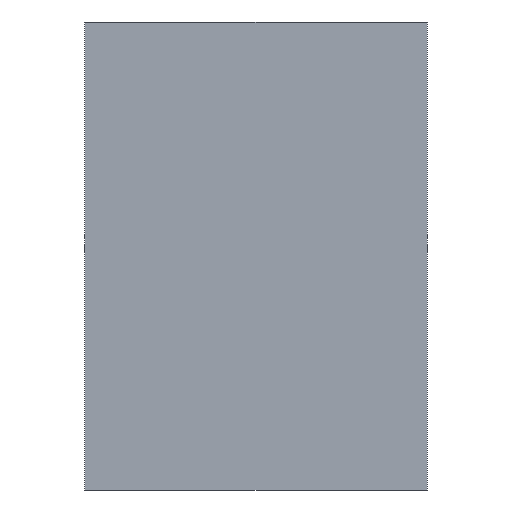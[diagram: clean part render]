
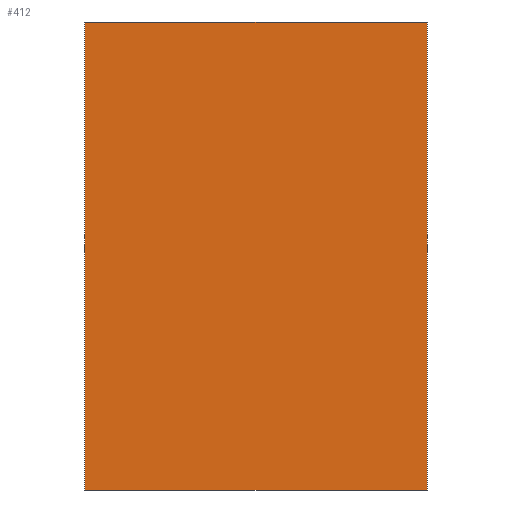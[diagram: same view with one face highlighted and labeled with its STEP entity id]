
A CAD part, front view. The second image highlights one B-rep face of the part: STEP entity #412.
In plain terms, the highlighted planar face has unit normal (0, -1, 0).
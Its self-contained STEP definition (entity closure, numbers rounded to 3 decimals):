
#296=DIRECTION('',(1.,0.,0.));
#297=VECTOR('',#296,534.);
#298=CARTESIAN_POINT('',(-267.,0.,0.));
#299=LINE('',#298,#297);
#304=DIRECTION('',(0.,0.,-1.));
#305=VECTOR('',#304,730.6);
#306=CARTESIAN_POINT('',(267.,0.,0.));
#307=LINE('',#306,#305);
#311=DIRECTION('',(-1.,0.,0.));
#312=VECTOR('',#311,534.);
#313=CARTESIAN_POINT('',(267.,0.,-730.6));
#314=LINE('',#313,#312);
#318=DIRECTION('',(0.,0.,1.));
#319=VECTOR('',#318,730.6);
#320=CARTESIAN_POINT('',(-267.,0.,-730.6));
#321=LINE('',#320,#319);
#381=CARTESIAN_POINT('',(-267.,0.,0.));
#382=CARTESIAN_POINT('',(267.,0.,0.));
#383=VERTEX_POINT('',#381);
#384=VERTEX_POINT('',#382);
#385=CARTESIAN_POINT('',(267.,0.,-730.6));
#386=VERTEX_POINT('',#385);
#387=CARTESIAN_POINT('',(-267.,0.,-730.6));
#388=VERTEX_POINT('',#387);
#397=CARTESIAN_POINT('',(0.,0.,0.));
#398=DIRECTION('',(0.,1.,0.));
#399=DIRECTION('',(1.,0.,0.));
#400=AXIS2_PLACEMENT_3D('',#397,#398,#399);
#401=PLANE('',#400);
#403=ORIENTED_EDGE('',*,*,#402,.T.);
#405=ORIENTED_EDGE('',*,*,#404,.T.);
#407=ORIENTED_EDGE('',*,*,#406,.T.);
#409=ORIENTED_EDGE('',*,*,#408,.T.);
#410=EDGE_LOOP('',(#403,#405,#407,#409));
#411=FACE_OUTER_BOUND('',#410,.F.);
#402=EDGE_CURVE('',#383,#384,#299,.T.);
#404=EDGE_CURVE('',#384,#386,#307,.T.);
#406=EDGE_CURVE('',#386,#388,#314,.T.);
#408=EDGE_CURVE('',#388,#383,#321,.T.);
#412=ADVANCED_FACE('',(#411),#401,.F.);
